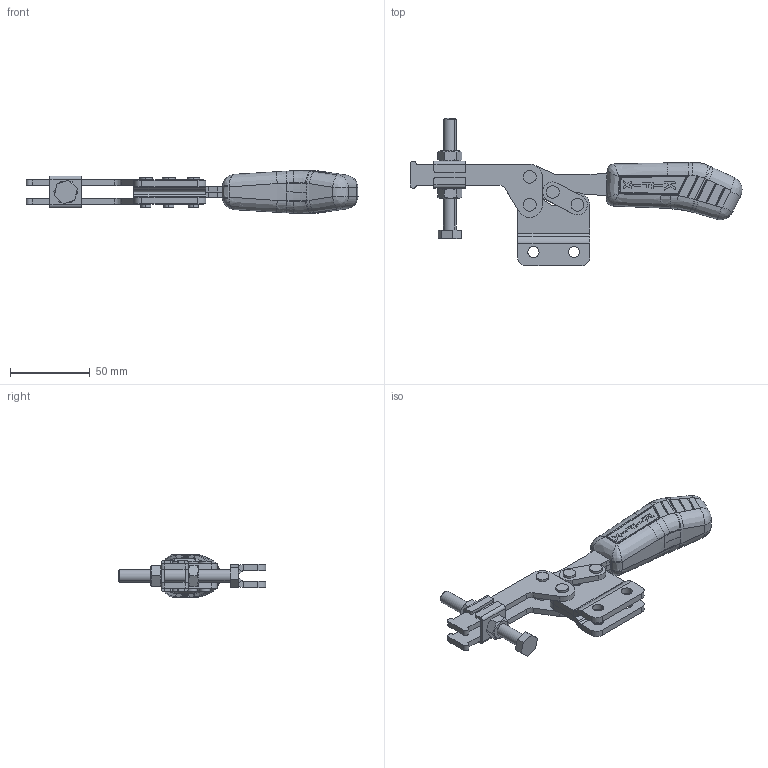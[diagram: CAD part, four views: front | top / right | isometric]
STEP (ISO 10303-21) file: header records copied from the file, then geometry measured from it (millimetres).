
FILE_DESCRIPTION (( 'STEP AP203' ), '1' );
FILE_NAME ('KF-521 R.STEP', '2014-08-22T19:37:01', ( 'Ricardo' ), ( '' ), 'SwSTEP 2.0', 'SolidWorks 2013', '' );
FILE_SCHEMA (( 'CONFIG_CONTROL_DESIGN' ));
Length unit declared in the file: millimetre
Products named in the file (11): 01.10047; 08.10032; 06.50015; 11.50002; 07.60001; KF-521 R; 14.10001; 12.50003; 02.11035_Direita; 02.11035_Esquerda; 03.13019
Assembly tree (18 placements, depth 2):
  KF-521 R
    02.11035_Direita
    02.11035_Esquerda
    03.13019  x2
    01.10047  x2
    08.10032  x2
    06.50015  x4
    07.60001
    14.10001  x2
    12.50003
    11.50002  x2
Bounding box: 208.1 x 92.31 x 27.02 mm (x, y, z)
Volume: 92629.5 mm3; surface area: 46572.8 mm2
Topology: 18 solids, 18 shells, 640 faces, 1605 edges, 1016 vertices
Faces by surface type: plane 284, cylinder 197, bspline 126, cone 30, torus 3
Entity records: 20482 total; most frequent: CARTESIAN_POINT 7998, ORIENTED_EDGE 2608, DIRECTION 1858, EDGE_CURVE 1304, VERTEX_POINT 831, AXIS2_PLACEMENT_3D 645, VECTOR 568, LINE 568
